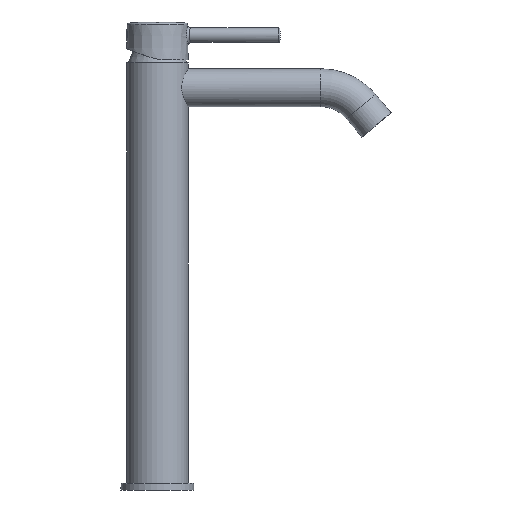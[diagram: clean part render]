
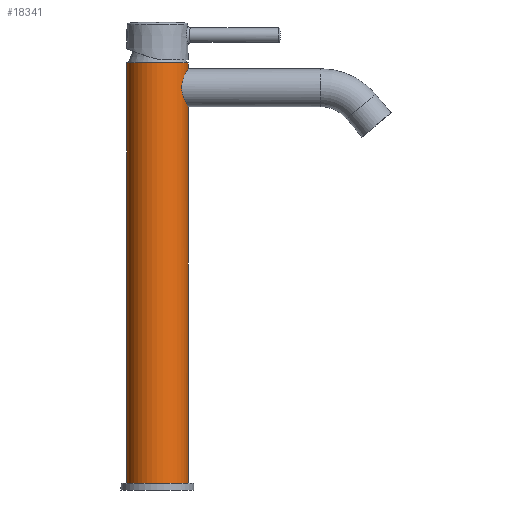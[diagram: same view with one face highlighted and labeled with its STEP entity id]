
A CAD part, front view. The second image highlights one B-rep face of the part: STEP entity #18341.
In plain terms, the highlighted cylindrical face has radius 21 mm (diameter 42 mm), a partial arc.
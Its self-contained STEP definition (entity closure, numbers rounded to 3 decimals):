
#1484=CARTESIAN_POINT('',(21.,0.,288.5));
#1485=CARTESIAN_POINT('',(21.,-0.583,288.5));
#1486=CARTESIAN_POINT('',(20.951,-1.758,288.421));
#1487=CARTESIAN_POINT('',(20.73,-3.506,288.062));
#1488=CARTESIAN_POINT('',(20.362,-5.238,287.447));
#1489=CARTESIAN_POINT('',(19.851,-6.926,286.558));
#1490=CARTESIAN_POINT('',(19.216,-8.525,285.383));
#1491=CARTESIAN_POINT('',(18.508,-9.96,283.937));
#1492=CARTESIAN_POINT('',(17.813,-11.144,282.293));
#1493=CARTESIAN_POINT('',(17.226,-12.022,280.565));
#1494=CARTESIAN_POINT('',(16.8,-12.604,278.843));
#1495=CARTESIAN_POINT('',(16.548,-12.93,277.158));
#1496=CARTESIAN_POINT('',(16.465,-13.035,275.5));
#1497=CARTESIAN_POINT('',(16.548,-12.93,273.842));
#1498=CARTESIAN_POINT('',(16.8,-12.604,272.156));
#1499=CARTESIAN_POINT('',(17.226,-12.022,270.435));
#1500=CARTESIAN_POINT('',(17.813,-11.144,268.707));
#1501=CARTESIAN_POINT('',(18.508,-9.96,267.063));
#1502=CARTESIAN_POINT('',(19.216,-8.525,265.617));
#1503=CARTESIAN_POINT('',(19.851,-6.926,264.442));
#1504=CARTESIAN_POINT('',(20.362,-5.238,263.553));
#1505=CARTESIAN_POINT('',(20.73,-3.506,262.938));
#1506=CARTESIAN_POINT('',(20.951,-1.758,262.579));
#1507=CARTESIAN_POINT('',(21.,-0.583,262.5));
#1508=CARTESIAN_POINT('',(21.,0.,262.5));
#1545=DIRECTION('',(0.,0.,1.));
#1546=VECTOR('',#1545,4.);
#1547=CARTESIAN_POINT('',(21.,0.,288.5));
#1548=LINE('',#1547,#1546);
#1597=CARTESIAN_POINT('',(0.,0.,4.5));
#1598=DIRECTION('',(0.,0.,-1.));
#1599=DIRECTION('',(1.,0.,0.));
#1600=AXIS2_PLACEMENT_3D('',#1597,#1598,#1599);
#1602=DIRECTION('',(0.,0.,1.));
#1603=VECTOR('',#1602,288.);
#1604=CARTESIAN_POINT('',(-21.,0.,4.5));
#1605=LINE('',#1604,#1603);
#1606=DIRECTION('',(0.,0.,-1.));
#1607=VECTOR('',#1606,258.);
#1608=CARTESIAN_POINT('',(21.,0.,262.5));
#1609=LINE('',#1608,#1607);
#1615=CARTESIAN_POINT('',(0.,0.,292.5));
#1616=DIRECTION('',(0.,0.,-1.));
#1617=DIRECTION('',(1.,0.,0.));
#1618=AXIS2_PLACEMENT_3D('',#1615,#1616,#1617);
#16048=CARTESIAN_POINT('',(21.,0.,288.5));
#16049=VERTEX_POINT('',#16048);
#16050=CARTESIAN_POINT('',(21.,0.,262.5));
#16051=VERTEX_POINT('',#16050);
#16072=CARTESIAN_POINT('',(-21.,0.,292.5));
#16073=CARTESIAN_POINT('',(21.,0.,292.5));
#16074=VERTEX_POINT('',#16072);
#16075=VERTEX_POINT('',#16073);
#16076=CARTESIAN_POINT('',(21.,0.,4.5));
#16077=CARTESIAN_POINT('',(-21.,0.,4.5));
#16078=VERTEX_POINT('',#16076);
#16079=VERTEX_POINT('',#16077);
#18327=CARTESIAN_POINT('',(0.,0.,-4.5));
#18328=DIRECTION('',(0.,0.,1.));
#18329=DIRECTION('',(1.,0.,0.));
#18330=AXIS2_PLACEMENT_3D('',#18327,#18328,#18329);
#18331=CYLINDRICAL_SURFACE('',#18330,21.);
#18332=ORIENTED_EDGE('',*,*,#18256,.T.);
#18333=ORIENTED_EDGE('',*,*,#18239,.T.);
#18335=ORIENTED_EDGE('',*,*,#18334,.F.);
#18336=ORIENTED_EDGE('',*,*,#18235,.F.);
#18337=ORIENTED_EDGE('',*,*,#18206,.T.);
#18338=ORIENTED_EDGE('',*,*,#18232,.T.);
#18339=EDGE_LOOP('',(#18332,#18333,#18335,#18336,#18337,#18338));
#18340=FACE_OUTER_BOUND('',#18339,.F.);
#18341=ADVANCED_FACE('',(#18340),#18331,.T.);
#1509=B_SPLINE_CURVE_WITH_KNOTS('',3,(#1484,#1485,#1486,#1487,#1488,#1489,#1490,
#1491,#1492,#1493,#1494,#1495,#1496,#1497,#1498,#1499,#1500,#1501,#1502,#1503,
#1504,#1505,#1506,#1507,#1508),.UNSPECIFIED.,.F.,.F.,(4,1,1,1,1,1,1,1,1,1,1,1,1,
1,1,1,1,1,1,1,1,1,4),(0.,0.045,0.091,
0.136,0.182,0.227,0.273,
0.318,0.364,0.409,0.455,0.5,
0.545,0.591,0.636,0.682,
0.727,0.773,0.818,0.864,
0.909,0.955,1.),.UNSPECIFIED.);
#1601=CIRCLE('',#1600,21.);
#1619=CIRCLE('',#1618,21.);
#18206=EDGE_CURVE('',#16049,#16051,#1509,.T.);
#18232=EDGE_CURVE('',#16051,#16078,#1609,.T.);
#18235=EDGE_CURVE('',#16049,#16075,#1548,.T.);
#18239=EDGE_CURVE('',#16079,#16074,#1605,.T.);
#18256=EDGE_CURVE('',#16078,#16079,#1601,.T.);
#18334=EDGE_CURVE('',#16075,#16074,#1619,.T.);
